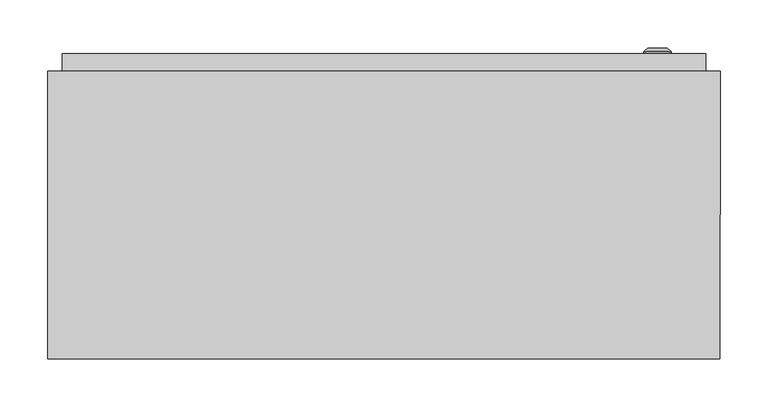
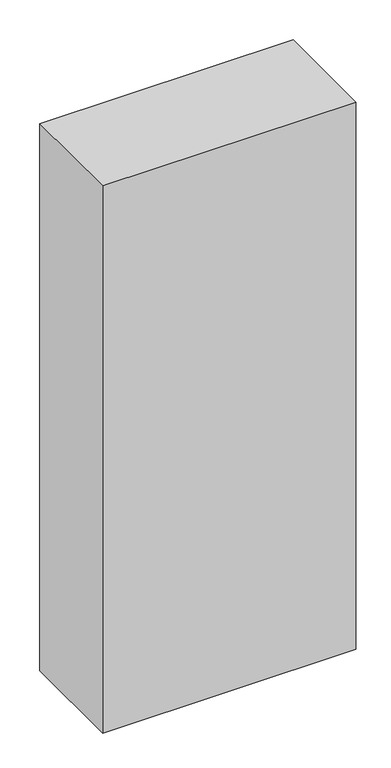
"""IFC4 building model written with IfcOpenShell, lengths in millimetres: proxy geometry, ШРС_IP54 : ШРС-1_1600х700х300_IP54."""

from ifc_helpers import new_model, si_unit, frame, origin, place, context, project, spatial, polyline, circle_curve, outline, extrude, faceted_brep, source, transform, mapped, element, save
from ifc_brep_helpers import plane_surface, cylinder_surface, revolved_surface, advanced_brep


def electrical_equipment_03c4f287(model_context):
    return source(origin(), model_context, "Body", "SolidModel", [
        advanced_brep(
        [(270.669873, 318.0, 320.0), (299.330127, 318.0, 320.0), (285.0, 318.0, 320.0), (270.669873, 320.366592, 320.0), (299.330127, 320.366592, 320.0), (275.0, 324.0, 320.0), (295.0, 324.0, 320.0), (283.1080471, 324.0, 320.0), (286.8919529, 324.0, 320.0), (283.1080471, 322.9822294, 320.0), (286.8919529, 322.9822294, 320.0), (285.0, 322.9822294, 320.0)],
        [
            (0, 1, circle_curve(frame((285.0, 318.0, 320.0), z_axis=(0.0, -1.0, 0.0), x_axis=(1.0, 0.0, 0.0)), 14.330127)),
            (1, 2),
            (2, 0),
            (1, 0, circle_curve(frame((285.0, 318.0, 320.0), z_axis=(0.0, -1.0, 0.0), x_axis=(1.0, 0.0, 0.0)), 14.330127)),
            (3, 4, circle_curve(frame((285.0, 320.366592, 320.0), z_axis=(0.0, -1.0, 0.0), x_axis=(1.0, 0.0, 0.0)), 14.330127)),
            (4, 1),
            (0, 3),
            (4, 3, circle_curve(frame((285.0, 320.366592, 320.0), z_axis=(0.0, -1.0, 0.0), x_axis=(1.0, 0.0, 0.0)), 14.330127)),
            (5, 6, circle_curve(frame((285.0, 324.0, 320.0), z_axis=(0.0, -1.0, 0.0), x_axis=(1.0, 0.0, 0.0)), 10.0)),
            (6, 4),
            (3, 5),
            (6, 5, circle_curve(frame((285.0, 324.0, 320.0), z_axis=(0.0, -1.0, 0.0), x_axis=(1.0, 0.0, 0.0)), 10.0)),
            (7, 8, circle_curve(frame((285.0, 324.0, 320.0), z_axis=(0.0, -1.0, 0.0), x_axis=(1.0, 0.0, 0.0)), 1.8919529)),
            (8, 6),
            (5, 7),
            (8, 7, circle_curve(frame((285.0, 324.0, 320.0), z_axis=(0.0, -1.0, 0.0), x_axis=(1.0, 0.0, 0.0)), 1.8919529)),
            (9, 10, circle_curve(frame((285.0, 322.9822294, 320.0), z_axis=(0.0, -1.0, 0.0), x_axis=(1.0, 0.0, 0.0)), 1.8919529)),
            (10, 8),
            (7, 9),
            (10, 9, circle_curve(frame((285.0, 322.9822294, 320.0), z_axis=(0.0, -1.0, 0.0), x_axis=(1.0, 0.0, 0.0)), 1.8919529)),
            (11, 10),
            (9, 11),
        ],
        [
            plane_surface(frame((285.0, 318.0, 320.0), z_axis=(0.0, -1.0, 0.0), x_axis=(1.0, 0.0, 0.0))),
            cylinder_surface(frame((285.0, 331.1348851, 320.0), z_axis=(0.0, 1.0, 0.0), x_axis=(1.0, 0.0, 0.0)), 14.330127),
            revolved_surface(polyline([(299.330127, 320.366592, 320.0), (295.0, 324.0, 320.0)]), (285.0, 331.1348851, 320.0), (0.0, 1.0, 0.0)),
            plane_surface(frame((285.0, 324.0, 320.0), z_axis=(0.0, 1.0, 0.0), x_axis=(1.0, 0.0, 0.0))),
            revolved_surface(polyline([(286.8919529, 324.0, 320.0), (286.8919529, 322.9822294, 320.0)]), (285.0, 331.1348851, 320.0), (0.0, 1.0, 0.0)),
            plane_surface(frame((285.0, 322.9822294, 320.0), z_axis=(0.0, 1.0, 0.0), x_axis=(1.0, 0.0, 0.0))),
        ],
        [
            (0, [[1, 2, 3]]),
            (0, [[4, -3, -2]]),
            (1, [[5, 6, -1, 7]]),
            (1, [[8, -7, -4, -6]]),
            (2, [[9, 10, -5, 11]]),
            (2, [[12, -11, -8, -10]]),
            (3, [[13, 14, -9, 15]]),
            (3, [[16, -15, -12, -14]]),
            (4, [[17, 18, -13, 19]]),
            (4, [[20, -19, -16, -18]]),
            (5, [[21, -17, 22]]),
            (5, [[-22, -20, -21]]),
        ],
    ),
        advanced_brep(
        [(270.669873, 318.0, 1285.0), (299.330127, 318.0, 1285.0), (285.0, 318.0, 1285.0), (270.669873, 320.366592, 1285.0), (299.330127, 320.366592, 1285.0), (275.0, 324.0, 1285.0), (295.0, 324.0, 1285.0), (283.1080471, 324.0, 1285.0), (286.8919529, 324.0, 1285.0), (283.1080471, 322.9822294, 1285.0), (286.8919529, 322.9822294, 1285.0), (285.0, 322.9822294, 1285.0)],
        [
            (0, 1, circle_curve(frame((285.0, 318.0, 1285.0), z_axis=(0.0, -1.0, 0.0), x_axis=(1.0, 0.0, 0.0)), 14.330127)),
            (1, 2),
            (2, 0),
            (1, 0, circle_curve(frame((285.0, 318.0, 1285.0), z_axis=(0.0, -1.0, 0.0), x_axis=(1.0, 0.0, 0.0)), 14.330127)),
            (3, 4, circle_curve(frame((285.0, 320.366592, 1285.0), z_axis=(0.0, -1.0, 0.0), x_axis=(1.0, 0.0, 0.0)), 14.330127)),
            (4, 1),
            (0, 3),
            (4, 3, circle_curve(frame((285.0, 320.366592, 1285.0), z_axis=(0.0, -1.0, 0.0), x_axis=(1.0, 0.0, 0.0)), 14.330127)),
            (5, 6, circle_curve(frame((285.0, 324.0, 1285.0), z_axis=(0.0, -1.0, 0.0), x_axis=(1.0, 0.0, 0.0)), 10.0)),
            (6, 4),
            (3, 5),
            (6, 5, circle_curve(frame((285.0, 324.0, 1285.0), z_axis=(0.0, -1.0, 0.0), x_axis=(1.0, 0.0, 0.0)), 10.0)),
            (7, 8, circle_curve(frame((285.0, 324.0, 1285.0), z_axis=(0.0, -1.0, 0.0), x_axis=(1.0, 0.0, 0.0)), 1.8919529)),
            (8, 6),
            (5, 7),
            (8, 7, circle_curve(frame((285.0, 324.0, 1285.0), z_axis=(0.0, -1.0, 0.0), x_axis=(1.0, 0.0, 0.0)), 1.8919529)),
            (9, 10, circle_curve(frame((285.0, 322.9822294, 1285.0), z_axis=(0.0, -1.0, 0.0), x_axis=(1.0, 0.0, 0.0)), 1.8919529)),
            (10, 8),
            (7, 9),
            (10, 9, circle_curve(frame((285.0, 322.9822294, 1285.0), z_axis=(0.0, -1.0, 0.0), x_axis=(1.0, 0.0, 0.0)), 1.8919529)),
            (11, 10),
            (9, 11),
        ],
        [
            plane_surface(frame((285.0, 318.0, 1285.0), z_axis=(0.0, -1.0, 0.0), x_axis=(1.0, 0.0, 0.0))),
            cylinder_surface(frame((285.0, 331.1348851, 1285.0), z_axis=(0.0, 1.0, 0.0), x_axis=(1.0, 0.0, 0.0)), 14.330127),
            revolved_surface(polyline([(299.330127, 320.366592, 1285.0), (295.0, 324.0, 1285.0)]), (285.0, 331.1348851, 1285.0), (0.0, 1.0, 0.0)),
            plane_surface(frame((285.0, 324.0, 1285.0), z_axis=(0.0, 1.0, 0.0), x_axis=(1.0, 0.0, 0.0))),
            revolved_surface(polyline([(286.8919529, 324.0, 1285.0), (286.8919529, 322.9822294, 1285.0)]), (285.0, 331.1348851, 1285.0), (0.0, 1.0, 0.0)),
            plane_surface(frame((285.0, 322.9822294, 1285.0), z_axis=(0.0, 1.0, 0.0), x_axis=(1.0, 0.0, 0.0))),
        ],
        [
            (0, [[1, 2, 3]]),
            (0, [[4, -3, -2]]),
            (1, [[5, 6, -1, 7]]),
            (1, [[8, -7, -4, -6]]),
            (2, [[9, 10, -5, 11]]),
            (2, [[12, -11, -8, -10]]),
            (3, [[13, 14, -9, 15]]),
            (3, [[16, -15, -12, -14]]),
            (4, [[17, 18, -13, 19]]),
            (4, [[20, -19, -16, -18]]),
            (5, [[21, -17, 22]]),
            (5, [[-22, -20, -21]]),
        ],
    ),
        faceted_brep([(-350.0, 300.0, 1600.0), (350.0067809, 300.0, 1600.0), (350.0067809, 300.0, 0.0), (-350.0, 300.0, 0.0), (315.8707865, 300.0, 93.3701084), (315.8707865, 300.0, 1492.9861595), (-313.3426966, 300.0, 1492.9861595), (-313.3426966, 300.0, 93.3701084), (-350.0, 0.0, 1600.0), (-350.0, 0.0, 0.0), (350.0, 0.0, 1600.0), (350.0, 0.0, 0.0), (-313.3426966, 10.0, 93.3701084), (315.8707865, 10.0, 93.3701084), (-313.3426966, 10.0, 1492.9861595), (315.8707865, 10.0, 1492.9861595)], [[[0, 1, 2, 3], [4, 5, 6, 7]], [[8, 0, 3, 9]], [[1, 10, 11, 2]], [[4, 7, 12, 13]], [[7, 6, 14, 12]], [[6, 5, 15, 14]], [[5, 4, 13, 15]], [[1, 0, 8, 10]], [[11, 10, 8, 9]], [[2, 11, 9, 3]], [[13, 12, 14, 15]]]),
        extrude(outline(polyline([(-305.8707865, 125.9831461), (-265.8707865, 125.9831461), (-265.8707865, 93.1179775), (-268.8707865, 93.1179775), (-268.8707865, 122.9831461), (-302.8707865, 122.9831461), (-302.8707865, 93.1179775), (-305.8707865, 93.1179775), (-305.8707865, 125.9831461)])), frame((0.0, 0.0, 189.6067416), z_axis=(0.0, 0.0, 1.0), x_axis=(1.0, 0.0, 0.0)), (0.0, 0.0, 1.0), 1345.3932584),
        extrude(outline(polyline([(265.8707865, 125.9831461), (305.8707865, 125.9831461), (305.8707865, 93.1179775), (302.8707865, 93.1179775), (302.8707865, 122.9831461), (268.8707865, 122.9831461), (268.8707865, 93.1179775), (265.8707865, 93.1179775), (265.8707865, 125.9831461)])), frame((0.0, 0.0, 189.6067416), z_axis=(0.0, 0.0, 1.0), x_axis=(1.0, 0.0, 0.0)), (0.0, 0.0, 1.0), 1345.3932584),
        extrude(outline(polyline([(-305.8707865, 10.0), (-315.8707865, 10.0), (-315.8707865, 280.0), (-305.8707865, 280.0), (-305.8707865, 10.0)])), frame((0.0, 0.0, 1445.5966059), z_axis=(0.0, 0.0, 1.0), x_axis=(1.0, 0.0, 0.0)), (0.0, 0.0, 1.0), 53.0898876),
        extrude(outline(polyline([(315.8707865, 10.0), (305.8707865, 10.0), (305.8707865, 280.0), (315.8707865, 280.0), (315.8707865, 10.0)])), frame((0.0, 0.0, 1445.5966059), z_axis=(0.0, 0.0, 1.0), x_axis=(1.0, 0.0, 0.0)), (0.0, 0.0, 1.0), 53.0898876),
        extrude(outline(polyline([(-305.8707865, 10.0), (-315.8707865, 10.0), (-315.8707865, 280.0), (-305.8707865, 280.0), (-305.8707865, 10.0)])), frame((0.0, 0.0, 260.5966059), z_axis=(0.0, 0.0, 1.0), x_axis=(1.0, 0.0, 0.0)), (0.0, 0.0, 1.0), 53.0898876),
        extrude(outline(polyline([(315.8707865, 10.0), (305.8707865, 10.0), (305.8707865, 280.0), (315.8707865, 280.0), (315.8707865, 10.0)])), frame((0.0, 0.0, 260.5966059), z_axis=(0.0, 0.0, 1.0), x_axis=(1.0, 0.0, 0.0)), (0.0, 0.0, 1.0), 53.0898876),
        extrude(outline(polyline([(-305.8707865, 10.0), (-315.8707865, 10.0), (-315.8707865, 280.0), (-305.8707865, 280.0), (-305.8707865, 10.0)])), frame((0.0, 0.0, 735.5966059), z_axis=(0.0, 0.0, 1.0), x_axis=(1.0, 0.0, 0.0)), (0.0, 0.0, 1.0), 53.0898876),
        extrude(outline(polyline([(315.8707865, 10.0), (305.8707865, 10.0), (305.8707865, 280.0), (315.8707865, 280.0), (315.8707865, 10.0)])), frame((0.0, 0.0, 735.5966059), z_axis=(0.0, 0.0, 1.0), x_axis=(1.0, 0.0, 0.0)), (0.0, 0.0, 1.0), 53.0898876),
        extrude(outline(polyline([(335.0, 300.0), (-335.0, 300.0), (-335.0, 318.0), (335.0, 318.0), (335.0, 300.0)])), frame((0.0, 0.0, 65.0187804), z_axis=(0.0, 0.0, 1.0), x_axis=(1.0, 0.0, 0.0)), (0.0, 0.0, 1.0), 1469.9812196),
    ])


if __name__ == "__main__":
    model = new_model("IFC4")
    model_context = context("Model", 3, world=origin())
    ifc_project = project(units=[si_unit("LENGTHUNIT", "METRE", prefix="MILLI")], contexts=[model_context])
    site = spatial("IfcSite", under=ifc_project)
    building = spatial("IfcBuilding", under=site)
    placement = place(None, origin())
    electrical_equipment_shape = electrical_equipment_03c4f287(model_context)
    element("IfcBuildingElementProxy", 1, Name="ШРС_IP54 : ШРС-1_1600х700х300_IP54", ObjectType="ШРС_IP54 : ШРС-1_1600х700х300_IP54", at=placement, inside=building, context=model_context, shape_type="MappedRepresentation", body=[
        mapped(electrical_equipment_shape, transform((0.0, 0.0, 0.0), x_axis=(1.0, 0.0, 0.0), y_axis=(0.0, 1.0, 0.0), z_axis=(0.0, 0.0, 1.0))),
    ])
    save(model, "model.ifc")
